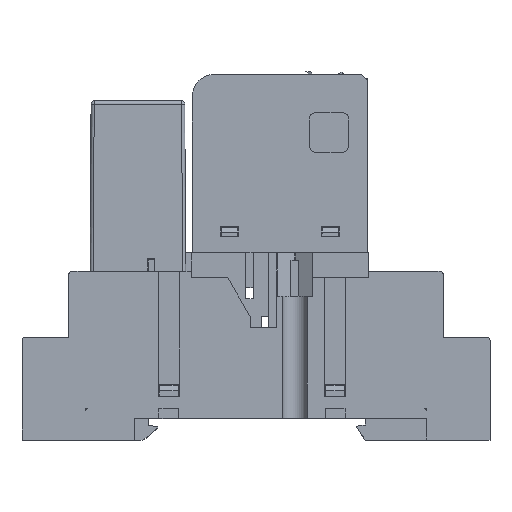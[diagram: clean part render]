
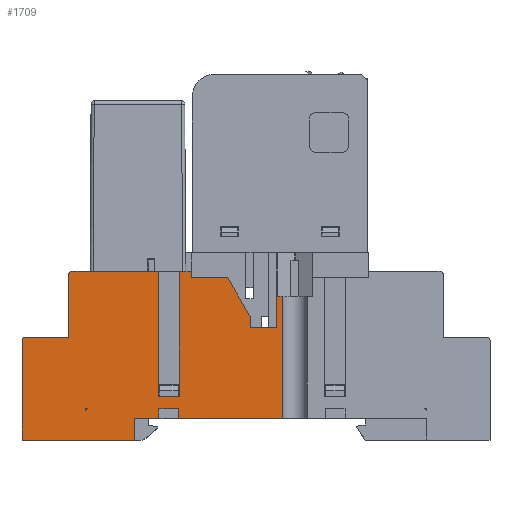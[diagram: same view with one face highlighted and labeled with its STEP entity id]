
A CAD part, top view. The second image highlights one B-rep face of the part: STEP entity #1709.
In plain terms, the highlighted planar face has unit normal (0, 0, 1).
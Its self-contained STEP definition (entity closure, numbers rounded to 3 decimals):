
#1709=ADVANCED_FACE('',(#38520,#38522),#38524,.T.);
#38520=FACE_BOUND('',#38521,.T.);
#38521=EDGE_LOOP('',(#73837,#73838,#73839,#73840,#73841,#73842,#73843,#73844,#73845,
#73846,#73847,#73848,#73849,#73850,#73851,#73852,#73853,#73854,#73855,#73856,#73857,
#73858,#73859,#73860,#73861));
#38522=FACE_BOUND('',#38523,.T.);
#38523=EDGE_LOOP('',(#73862,#73863,#73864));
#38524=PLANE('',#38525);
#38525=AXIS2_PLACEMENT_3D('',#38526,#38527,#38528);
#38526=CARTESIAN_POINT('',(-43.65,0.,15.));
#38527=DIRECTION('',(0.,0.,1.));
#38528=DIRECTION('',(1.,0.,0.));
#73837=ORIENTED_EDGE('',*,*,#95919,.T.);
#73838=ORIENTED_EDGE('',*,*,#95920,.T.);
#73839=ORIENTED_EDGE('',*,*,#95921,.T.);
#73840=ORIENTED_EDGE('',*,*,#95520,.F.);
#73841=ORIENTED_EDGE('',*,*,#95918,.F.);
#73842=ORIENTED_EDGE('',*,*,#95922,.T.);
#73843=ORIENTED_EDGE('',*,*,#95923,.T.);
#73844=ORIENTED_EDGE('',*,*,#95924,.F.);
#73845=ORIENTED_EDGE('',*,*,#95925,.F.);
#73846=ORIENTED_EDGE('',*,*,#95926,.T.);
#73847=ORIENTED_EDGE('',*,*,#95927,.T.);
#73848=ORIENTED_EDGE('',*,*,#95928,.F.);
#73849=ORIENTED_EDGE('',*,*,#95929,.T.);
#73850=ORIENTED_EDGE('',*,*,#95930,.T.);
#73851=ORIENTED_EDGE('',*,*,#95931,.T.);
#73852=ORIENTED_EDGE('',*,*,#95932,.F.);
#73853=ORIENTED_EDGE('',*,*,#95933,.T.);
#73854=ORIENTED_EDGE('',*,*,#95934,.F.);
#73855=ORIENTED_EDGE('',*,*,#95935,.T.);
#73856=ORIENTED_EDGE('',*,*,#95936,.T.);
#73857=ORIENTED_EDGE('',*,*,#95937,.T.);
#73858=ORIENTED_EDGE('',*,*,#95938,.T.);
#73859=ORIENTED_EDGE('',*,*,#95939,.T.);
#73860=ORIENTED_EDGE('',*,*,#95940,.T.);
#73861=ORIENTED_EDGE('',*,*,#95524,.F.);
#73862=ORIENTED_EDGE('',*,*,#95941,.T.);
#73863=ORIENTED_EDGE('',*,*,#95942,.T.);
#73864=ORIENTED_EDGE('',*,*,#95943,.F.);
#95520=EDGE_CURVE('',#106997,#106999,#107000,.T.);
#95524=EDGE_CURVE('',#107005,#107007,#107008,.T.);
#95918=EDGE_CURVE('',#107686,#106997,#107688,.F.);
#95919=EDGE_CURVE('',#107005,#107689,#107690,.F.);
#95920=EDGE_CURVE('',#107689,#107691,#107692,.F.);
#95921=EDGE_CURVE('',#107691,#106999,#107693,.F.);
#95922=EDGE_CURVE('',#107686,#107694,#107695,.F.);
#95923=EDGE_CURVE('',#107694,#107696,#107697,.T.);
#95924=EDGE_CURVE('',#107698,#107696,#107699,.F.);
#95925=EDGE_CURVE('',#107700,#107698,#107701,.T.);
#95926=EDGE_CURVE('',#107700,#107702,#107703,.T.);
#95927=EDGE_CURVE('',#107702,#107704,#107705,.T.);
#95928=EDGE_CURVE('',#107706,#107704,#107707,.T.);
#95929=EDGE_CURVE('',#107706,#107708,#107709,.F.);
#95930=EDGE_CURVE('',#107708,#107710,#107711,.F.);
#95931=EDGE_CURVE('',#107710,#107712,#107713,.F.);
#95932=EDGE_CURVE('',#107714,#107712,#107715,.T.);
#95933=EDGE_CURVE('',#107714,#107716,#107717,.T.);
#95934=EDGE_CURVE('',#107718,#107716,#107719,.T.);
#95935=EDGE_CURVE('',#107718,#107720,#107721,.F.);
#95936=EDGE_CURVE('',#107720,#107722,#107723,.F.);
#95937=EDGE_CURVE('',#107722,#107724,#107725,.F.);
#95938=EDGE_CURVE('',#107724,#107726,#107727,.F.);
#95939=EDGE_CURVE('',#107726,#107728,#107729,.F.);
#95940=EDGE_CURVE('',#107728,#107007,#107730,.F.);
#95941=EDGE_CURVE('',#107731,#107732,#107733,.F.);
#95942=EDGE_CURVE('',#107732,#107734,#107735,.F.);
#95943=EDGE_CURVE('',#107731,#107734,#107736,.F.);
#106997=VERTEX_POINT('',#126184);
#106999=VERTEX_POINT('',#126188);
#107000=LINE('',#126189,#126190);
#107005=VERTEX_POINT('',#126200);
#107007=VERTEX_POINT('',#126204);
#107008=LINE('',#126205,#126206);
#107686=VERTEX_POINT('',#127707);
#107688=CIRCLE('',#127711,0.5);
#107689=VERTEX_POINT('',#127715);
#107690=LINE('',#127716,#127717);
#107691=VERTEX_POINT('',#127719);
#107692=LINE('',#127720,#127721);
#107693=LINE('',#127723,#127724);
#107694=VERTEX_POINT('',#127726);
#107695=LINE('',#127727,#127728);
#107696=VERTEX_POINT('',#127730);
#107697=LINE('',#127731,#127732);
#107698=VERTEX_POINT('',#127734);
#107699=CIRCLE('',#127735,0.5);
#107700=VERTEX_POINT('',#127739);
#107701=LINE('',#127740,#127741);
#107702=VERTEX_POINT('',#127743);
#107703=LINE('',#127744,#127745);
#107704=VERTEX_POINT('',#127747);
#107705=LINE('',#127748,#127749);
#107706=VERTEX_POINT('',#127751);
#107707=LINE('',#127752,#127753);
#107708=VERTEX_POINT('',#127755);
#107709=LINE('',#127756,#127757);
#107710=VERTEX_POINT('',#127759);
#107711=LINE('',#127760,#127761);
#107712=VERTEX_POINT('',#127763);
#107713=LINE('',#127764,#127765);
#107714=VERTEX_POINT('',#127767);
#107715=LINE('',#127768,#127769);
#107716=VERTEX_POINT('',#127771);
#107717=LINE('',#127772,#127773);
#107718=VERTEX_POINT('',#127775);
#107719=LINE('',#127776,#127777);
#107720=VERTEX_POINT('',#127779);
#107721=LINE('',#127780,#127781);
#107722=VERTEX_POINT('',#127783);
#107723=LINE('',#127784,#127785);
#107724=VERTEX_POINT('',#127787);
#107725=LINE('',#127788,#127789);
#107726=VERTEX_POINT('',#127791);
#107727=LINE('',#127792,#127793);
#107728=VERTEX_POINT('',#127795);
#107729=LINE('',#127796,#127797);
#107730=LINE('',#127799,#127800);
#107731=VERTEX_POINT('',#127802);
#107732=VERTEX_POINT('',#127803);
#107733=LINE('',#127804,#127805);
#107734=VERTEX_POINT('',#127807);
#107735=LINE('',#127808,#127809);
#107736=CIRCLE('',#127811,0.3);
#126184=CARTESIAN_POINT('',(-35.65,27.,15.));
#126188=CARTESIAN_POINT('',(-21.85,27.,15.));
#126189=CARTESIAN_POINT('',(-35.65,27.,15.));
#126190=VECTOR('',#126191,1.);
#126191=DIRECTION('',(1.,0.,0.));
#126200=CARTESIAN_POINT('',(-18.45,27.,15.));
#126204=CARTESIAN_POINT('',(-16.55,27.,15.));
#126205=CARTESIAN_POINT('',(-18.45,27.,15.));
#126206=VECTOR('',#126207,1.);
#126207=DIRECTION('',(1.,0.,0.));
#127707=CARTESIAN_POINT('',(-36.15,26.5,15.));
#127711=AXIS2_PLACEMENT_3D('',#127712,#127713,#127714);
#127712=CARTESIAN_POINT('',(-35.65,26.5,15.));
#127713=DIRECTION('',(0.,-0.,1.));
#127714=DIRECTION('',(0.,1.,0.));
#127715=CARTESIAN_POINT('',(-18.45,7.,15.));
#127716=CARTESIAN_POINT('',(-18.45,7.,15.));
#127717=VECTOR('',#127718,1.);
#127718=DIRECTION('',(0.,1.,0.));
#127719=CARTESIAN_POINT('',(-21.85,7.,15.));
#127720=CARTESIAN_POINT('',(-21.85,7.,15.));
#127721=VECTOR('',#127722,1.);
#127722=DIRECTION('',(1.,0.,0.));
#127723=CARTESIAN_POINT('',(-21.85,27.,15.));
#127724=VECTOR('',#127725,1.);
#127725=DIRECTION('',(0.,-1.,0.));
#127726=CARTESIAN_POINT('',(-36.15,16.5,15.));
#127727=CARTESIAN_POINT('',(-36.15,16.5,15.));
#127728=VECTOR('',#127729,1.);
#127729=DIRECTION('',(0.,1.,0.));
#127730=CARTESIAN_POINT('',(-43.15,16.5,15.));
#127731=CARTESIAN_POINT('',(-36.15,16.5,15.));
#127732=VECTOR('',#127733,1.);
#127733=DIRECTION('',(-1.,0.,0.));
#127734=CARTESIAN_POINT('',(-43.65,16.,15.));
#127735=AXIS2_PLACEMENT_3D('',#127736,#127737,#127738);
#127736=CARTESIAN_POINT('',(-43.15,16.,15.));
#127737=DIRECTION('',(0.,-0.,1.));
#127738=DIRECTION('',(0.,1.,0.));
#127739=CARTESIAN_POINT('',(-43.65,0.,15.));
#127740=CARTESIAN_POINT('',(-43.65,0.,15.));
#127741=VECTOR('',#127742,1.);
#127742=DIRECTION('',(0.,1.,0.));
#127743=CARTESIAN_POINT('',(-25.65,0.,15.));
#127744=CARTESIAN_POINT('',(-43.65,0.,15.));
#127745=VECTOR('',#127746,1.);
#127746=DIRECTION('',(1.,0.,0.));
#127747=CARTESIAN_POINT('',(-25.65,3.5,15.));
#127748=CARTESIAN_POINT('',(-25.65,0.,15.));
#127749=VECTOR('',#127750,1.);
#127750=DIRECTION('',(0.,1.,0.));
#127751=CARTESIAN_POINT('',(-21.75,3.5,15.));
#127752=CARTESIAN_POINT('',(-21.75,3.5,15.));
#127753=VECTOR('',#127754,1.);
#127754=DIRECTION('',(-1.,0.,0.));
#127755=CARTESIAN_POINT('',(-21.75,5.,15.));
#127756=CARTESIAN_POINT('',(-21.75,5.,15.));
#127757=VECTOR('',#127758,1.);
#127758=DIRECTION('',(0.,-1.,0.));
#127759=CARTESIAN_POINT('',(-18.55,5.,15.));
#127760=CARTESIAN_POINT('',(-18.55,5.,15.));
#127761=VECTOR('',#127762,1.);
#127762=DIRECTION('',(-1.,0.,0.));
#127763=CARTESIAN_POINT('',(-18.55,3.5,15.));
#127764=CARTESIAN_POINT('',(-18.55,3.5,15.));
#127765=VECTOR('',#127766,1.);
#127766=DIRECTION('',(0.,1.,0.));
#127767=CARTESIAN_POINT('',(-2.,3.5,15.));
#127768=CARTESIAN_POINT('',(-2.,3.5,15.));
#127769=VECTOR('',#127770,1.);
#127770=DIRECTION('',(-1.,0.,0.));
#127771=CARTESIAN_POINT('',(-2.,23.,15.));
#127772=CARTESIAN_POINT('',(-2.,3.5,15.));
#127773=VECTOR('',#127774,1.);
#127774=DIRECTION('',(0.,1.,0.));
#127775=CARTESIAN_POINT('',(-2.9,23.,15.));
#127776=CARTESIAN_POINT('',(-2.9,23.,15.));
#127777=VECTOR('',#127778,1.);
#127778=DIRECTION('',(1.,0.,0.));
#127779=CARTESIAN_POINT('',(-2.9,18.,15.));
#127780=CARTESIAN_POINT('',(-2.9,18.,15.));
#127781=VECTOR('',#127782,1.);
#127782=DIRECTION('',(0.,1.,0.));
#127783=CARTESIAN_POINT('',(-7.15,18.,15.));
#127784=CARTESIAN_POINT('',(-7.15,18.,15.));
#127785=VECTOR('',#127786,1.);
#127786=DIRECTION('',(1.,0.,0.));
#127787=CARTESIAN_POINT('',(-7.15,19.8,15.));
#127788=CARTESIAN_POINT('',(-7.15,19.8,15.));
#127789=VECTOR('',#127790,1.);
#127790=DIRECTION('',(0.,-1.,0.));
#127791=CARTESIAN_POINT('',(-10.73,26.,15.));
#127792=CARTESIAN_POINT('',(-10.73,26.,15.));
#127793=VECTOR('',#127794,1.);
#127794=DIRECTION('',(0.5,-0.866,0.));
#127795=CARTESIAN_POINT('',(-16.55,26.,15.));
#127796=CARTESIAN_POINT('',(-16.55,26.,15.));
#127797=VECTOR('',#127798,1.);
#127798=DIRECTION('',(1.,0.,0.));
#127799=CARTESIAN_POINT('',(-16.55,27.,15.));
#127800=VECTOR('',#127801,1.);
#127801=DIRECTION('',(0.,-1.,0.));
#127802=CARTESIAN_POINT('',(-33.45,4.7,15.));
#127803=CARTESIAN_POINT('',(-33.45,5.,15.));
#127804=CARTESIAN_POINT('',(-33.45,5.,15.));
#127805=VECTOR('',#127806,1.);
#127806=DIRECTION('',(0.,-1.,0.));
#127807=CARTESIAN_POINT('',(-33.15,5.,15.));
#127808=CARTESIAN_POINT('',(-33.15,5.,15.));
#127809=VECTOR('',#127810,1.);
#127810=DIRECTION('',(-1.,0.,0.));
#127811=AXIS2_PLACEMENT_3D('',#127812,#127813,#127814);
#127812=CARTESIAN_POINT('',(-33.15,4.7,15.));
#127813=DIRECTION('',(0.,-0.,1.));
#127814=DIRECTION('',(0.,1.,0.));
